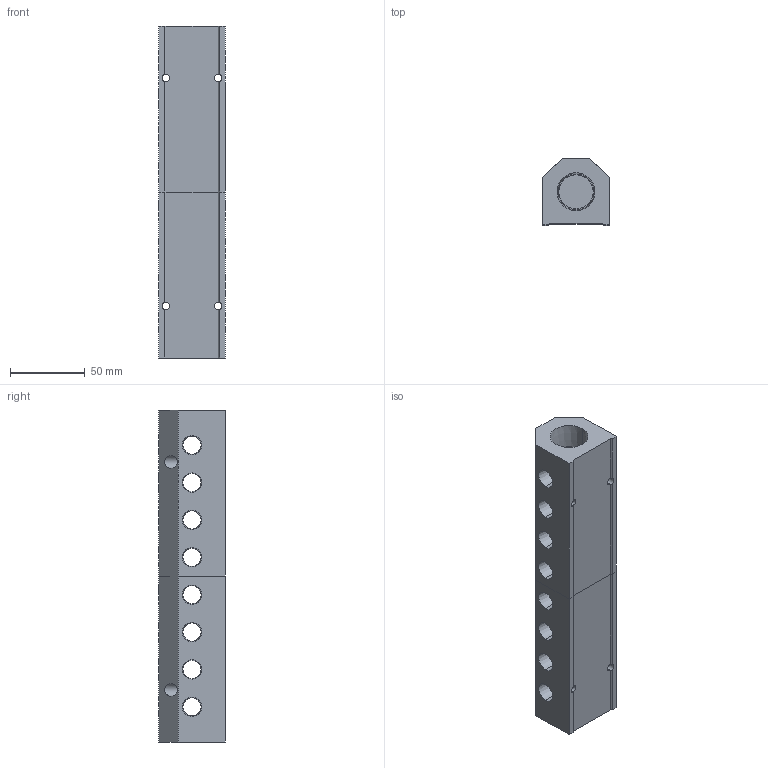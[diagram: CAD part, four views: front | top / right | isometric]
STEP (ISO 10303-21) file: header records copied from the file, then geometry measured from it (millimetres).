
FILE_DESCRIPTION (( 'STEP AP214' ), '1' );
FILE_NAME ('ALM8ACE-N4N12-222RB.step', '2022-02-06T14:18:53', ( '' ), ( '' ), 'SwSTEP 2.0', 'SolidWorks 2020', '' );
FILE_SCHEMA (( 'AUTOMOTIVE_DESIGN' ));
Length unit declared in the file: millimetre
Products named in the file (1): ALM8ACE-N4N12-222RB
Bounding box: 44.5 x 44.5 x 222 mm (x, y, z)
Volume: 263862.7 mm3; surface area: 66556.4 mm2
Topology: 2 solids, 2 shells, 396 faces, 1079 edges, 706 vertices
Faces by surface type: plane 246, bspline 68, cone 58, cylinder 24
Entity records: 22587 total; most frequent: CARTESIAN_POINT 9160, ORIENTED_EDGE 2158, DIRECTION 1613, EDGE_CURVE 1079, VECTOR 755, LINE 755, VERTEX_POINT 706, EDGE_LOOP 471
